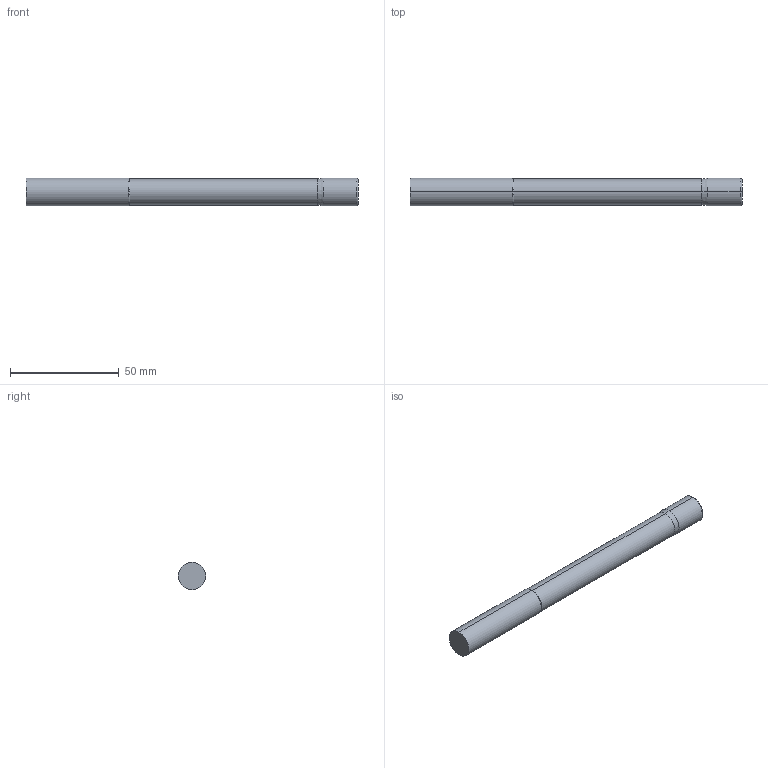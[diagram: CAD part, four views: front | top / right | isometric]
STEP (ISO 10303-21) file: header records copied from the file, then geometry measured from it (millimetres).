
FILE_DESCRIPTION (( 'STEP AP214' ), '1' );
FILE_NAME ('SSIRNX70500-030.STEP', '2025-05-30T15:05:05', ( '' ), ( '' ), 'SwSTEP 2.0', 'SolidWorks 2023', '' );
FILE_SCHEMA (( 'AUTOMOTIVE_DESIGN' ));
Length unit declared in the file: inch
Products named in the file (3): SSI7 Shank Only_SSIRNX70500-030; SSI7 Cut Only_SSIRNX70500-030; SSIRNX70500-030
Assembly tree (2 placements, depth 2):
  SSIRNX70500-030
    SSI7 Cut Only_SSIRNX70500-030
    SSI7 Shank Only_SSIRNX70500-030
Bounding box: 152.4 x 12.7 x 12.7 mm (x, y, z)
Volume: 18215.1 mm3; surface area: 6402.6 mm2
Topology: 2 solids, 2 shells, 16 faces, 28 edges, 16 vertices
Faces by surface type: cylinder 6, plane 4, cone 4, torus 2
Entity records: 484 total; most frequent: DIRECTION 88, CARTESIAN_POINT 65, ORIENTED_EDGE 56, AXIS2_PLACEMENT_3D 39, EDGE_CURVE 28, CIRCLE 18, EDGE_LOOP 16, FACE_OUTER_BOUND 16
